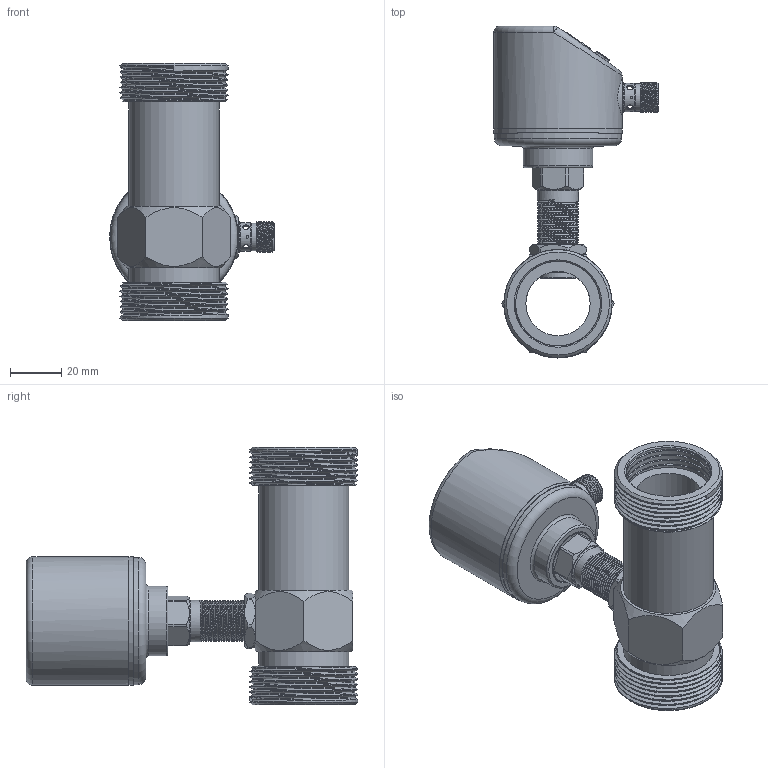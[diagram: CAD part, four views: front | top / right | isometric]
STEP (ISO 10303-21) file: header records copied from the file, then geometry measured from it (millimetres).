
FILE_DESCRIPTION (( 'STEP AP214' ), '1' );
FILE_NAME ('DN25俋杅珆.STEP', '2025-03-05T01:26:46', ( '' ), ( '' ), 'SwSTEP 2.0', 'SolidWorks 2020', '' );
FILE_SCHEMA (( 'AUTOMOTIVE_DESIGN' ));
Length unit declared in the file: millimetre
Products named in the file (10): 揤薯珆尨欶; 抻芛俋蹟恇G1-4; DN25俋; 恦謫抻芛5; 揤薯奻裔; 滅阨諉芛褲极1; 蹟譫1; PVC躇猾菜; 偌瑩簽; DN25俋杅珆
Assembly tree (11 placements, depth 2):
  DN25俋杅珆
    揤薯奻裔
    揤薯珆尨欶
    滅阨諉芛褲极1
    偌瑩簽  x3
    PVC躇猾菜
    抻芛俋蹟恇G1-4
    恦謫抻芛5
    蹟譫1
    DN25俋
Bounding box: 64 x 129 x 100 mm (x, y, z)
Volume: 83372.8 mm3; surface area: 59229.4 mm2
Topology: 11 solids, 11 shells, 454 faces, 1086 edges, 714 vertices
Faces by surface type: plane 173, cylinder 168, cone 69, bspline 28, torus 12, sphere 4
Full cylindrical faces by diameter (mm): 1 x4, 1.2 x3, 1.8 x1, 2 x5, 2.5 x7, 2.8 x1, 4.3 x3, 4.5 x6, 7 x15, 7.2 x1, 8.5 x1, 9.75 x1, 10.5 x1, 10.7 x1, 10.8 x1, 10.9 x1, 11 x2, 12 x1, 14 x1, 14.3 x1, 14.4 x1, 14.8 x1, 16 x29, 17.34 x2, 17.4 x1, 21.24 x1, 21.3 x1, 24 x1, 25 x1, 27 x1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
Entity records: 26583 total; most frequent: CARTESIAN_POINT 17953, DIRECTION 1662, ORIENTED_EDGE 1484, EDGE_CURVE 742, AXIS2_PLACEMENT_3D 682, EDGE_LOOP 591, VERTEX_POINT 541, FACE_OUTER_BOUND 456
